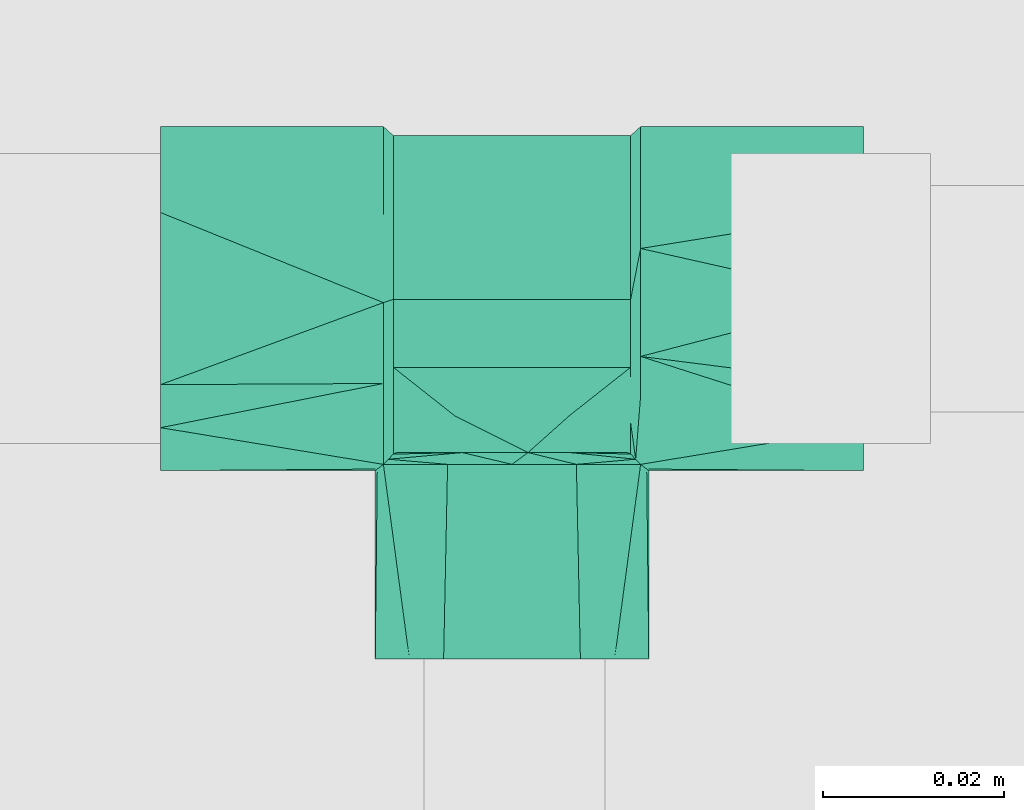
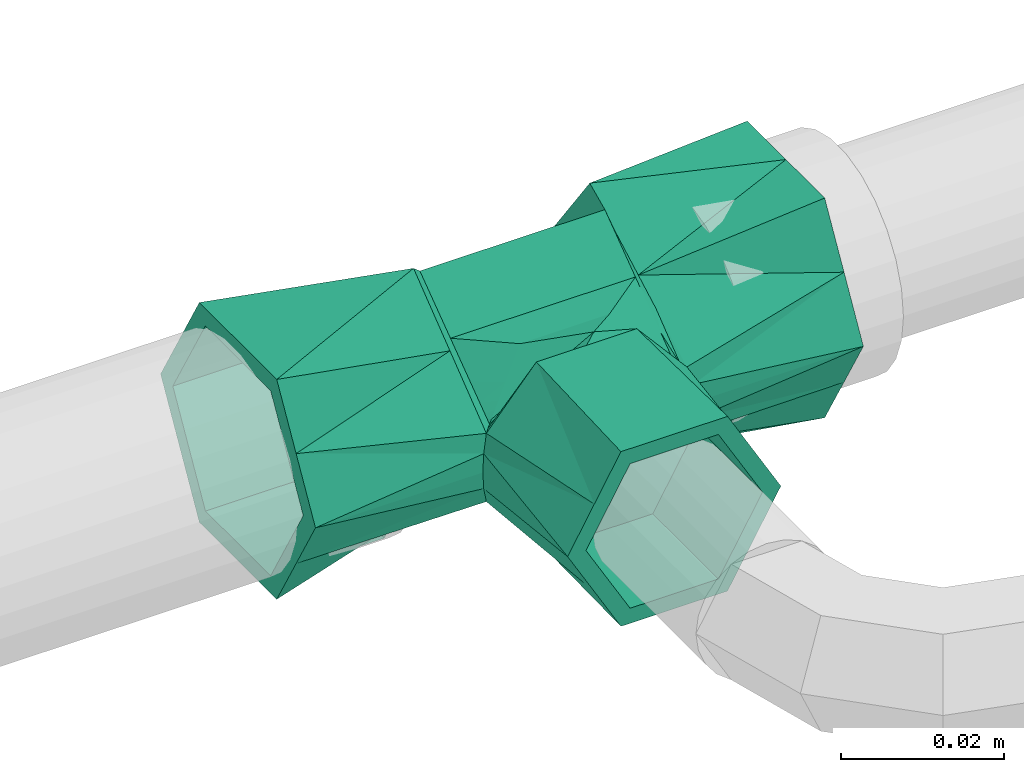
# One storey, part 110 of 166: 1 flow fitting.
"""IFC2X3 building model written with IfcOpenShell, lengths in metres."""

from ifc_helpers import new_model, entity, si_unit, converted_unit, direction, frame, origin, place, context, subcontext, project, spatial, faceted_brep, source, transform, mapped, material, type_object, type_shapes, element, save


model = new_model("IFC2X3")

# Units and contexts
model_context = context("Model", 3, precision=1e-05, world=origin(), true_north=direction((6.123233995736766e-17, 1.0)))
body_context = subcontext(model_context, "Body", "Model", "MODEL_VIEW")
ifc_project = project(units=[si_unit("LENGTHUNIT", "METRE"), converted_unit("PLANEANGLEUNIT", "DEGREE", entity("IfcPlaneAngleMeasure", 0.017453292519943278), si_unit("PLANEANGLEUNIT", "RADIAN"), dimensions=[0, 0, 0, 0, 0, 0, 0]), si_unit("AREAUNIT", "SQUARE_METRE")], contexts=[model_context])

# Site, building, storey
site_placement = place(None, origin())
site = spatial("IfcSite", under=ifc_project, at=site_placement, Name="Default", CompositionType="ELEMENT")
building_placement = place(site_placement, origin())
building = spatial("IfcBuilding", under=site, at=building_placement, Name="CASA DE ACOLHIDA PARA IDOSOS", CompositionType="ELEMENT")
storey_placement = place(building_placement, frame((0.0, 0.0, -1.7499999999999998)))
storey = spatial("IfcBuildingStorey", under=building, at=storey_placement, Name="IMPLANTAÇÃO DRENAGEM", CompositionType="ELEMENT", Elevation=-1.7499999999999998)

# Flow fitting
ifc_material = material(Name="PVC Branco")
pipe_fitting_type = type_object("IfcPipeFittingType", Name="AF_Roscavel_Te_Reducao:Standard", PredefinedType="NOTDEFINED", material=ifc_material)
shared_shape = source(origin(), body_context, "Body", "Brep", [
    faceted_brep([(-0.014199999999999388, 0.01563344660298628, -0.004544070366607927), (-0.014199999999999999, 0.018999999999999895, 0.0), (-0.0131, 0.01799999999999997, 0.0), (-0.014199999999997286, -0.01071379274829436, -0.009268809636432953), (-0.013099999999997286, -0.00862473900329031, -0.011707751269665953), (-0.01309999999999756, -0.012376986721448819, -0.008943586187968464), (-0.013099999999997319, -0.013728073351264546, -0.00794828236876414), (-0.01419999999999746, -0.0004246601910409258, -0.01490965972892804), (-0.01309999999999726, -0.004354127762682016, -0.014853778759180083), (-0.01419999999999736, -0.006383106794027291, -0.011643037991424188), (-0.013099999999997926, 0.004437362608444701, -0.013499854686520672), (-0.014199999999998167, 0.008900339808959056, -0.013632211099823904), (-0.013099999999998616, 0.008958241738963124, -0.008999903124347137), (-0.013099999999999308, 0.013479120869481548, -0.004499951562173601), (-0.01419999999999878, 0.01226689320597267, -0.009088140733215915), (-0.013653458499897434, -0.01773405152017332, -0.005279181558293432), (-0.013099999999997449, -0.014771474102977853, -0.007179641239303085), (-0.013099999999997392, -0.015968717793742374, -0.006297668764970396), (-0.013099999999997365, -0.016567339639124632, -0.005856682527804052), (-0.013099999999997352, -0.016866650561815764, -0.005636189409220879), (-0.013099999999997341, -0.017016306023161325, -0.005525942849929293), (-0.01309999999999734, -0.017165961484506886, -0.005415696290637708), (-0.014199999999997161, -0.018300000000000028, -0.005109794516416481), (-0.014199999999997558, 0.005533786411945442, -0.018176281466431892), (-0.013099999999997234, -8.35165220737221e-05, -0.017999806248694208), (-0.013099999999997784, -0.007588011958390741, -0.012471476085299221), (-0.013100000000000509, -0.0001668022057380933, 0.014208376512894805), (-0.014200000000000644, -0.004906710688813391, 0.015523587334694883), (-0.01310000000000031, -0.005833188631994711, 0.011277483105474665), (-0.014200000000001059, 0.014139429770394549, 0.0047487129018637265), (-0.013100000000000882, 0.011749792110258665, 0.00856963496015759), (-0.013100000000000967, 0.014874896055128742, 0.004284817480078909), (-0.01420000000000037, -0.009371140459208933, 0.012052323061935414), (-0.014200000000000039, -0.014747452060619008, 0.007872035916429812), (-0.013100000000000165, -0.009867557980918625, 0.009190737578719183), (-0.014200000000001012, 0.009278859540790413, 0.00949742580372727), (-0.014200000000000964, 0.004418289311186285, 0.014246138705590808), (-0.01310000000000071, 0.0054995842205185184, 0.01713926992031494), (-0.013100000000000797, 0.008624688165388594, 0.012854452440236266), (-0.013653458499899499, -0.017734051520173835, 0.005279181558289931), (-0.014200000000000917, -0.0004422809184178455, 0.018994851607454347), (-0.014199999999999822, -0.01830000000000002, 0.005109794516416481), (-0.013099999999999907, -0.01716596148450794, 0.0054156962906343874), (-0.013099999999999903, -0.01700710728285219, 0.005497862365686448), (-0.013099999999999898, -0.016848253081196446, 0.0055800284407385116), (-0.013099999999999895, -0.016530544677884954, 0.0057443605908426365), (-0.01309999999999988, -0.015895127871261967, 0.006073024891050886), (-0.01309999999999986, -0.014624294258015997, 0.006730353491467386), (-0.013099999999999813, -0.012082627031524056, 0.008045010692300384), (-0.013099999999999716, 0.010989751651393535, 0.009611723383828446), (-0.013099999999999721, -0.006999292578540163, 0.010674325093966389), (0.00953576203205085, -0.014962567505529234, 0.009221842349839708), (0.01113423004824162, -0.01598128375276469, 0.007568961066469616), (0.013100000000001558, -0.014624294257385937, 0.006730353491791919), (0.013100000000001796, -0.006999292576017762, 0.010674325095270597), (0.013100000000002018, -0.005833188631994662, 0.011277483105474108), (0.013100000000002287, -0.00016680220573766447, 0.01420837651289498), (0.013100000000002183, 0.005499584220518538, 0.017139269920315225), (0.0127326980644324, -0.017000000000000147, 0.005916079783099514), (0.012919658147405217, -0.017084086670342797, 0.005668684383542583), (0.01310000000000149, -0.01684825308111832, 0.0055800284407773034), (0.013100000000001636, -0.012082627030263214, 0.00804501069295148), (0.006338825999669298, -0.01292513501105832, 0.012527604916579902), (0.007625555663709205, -0.013745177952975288, 0.011197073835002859), (0.008912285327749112, -0.014565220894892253, 0.009866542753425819), (-0.011133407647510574, -0.015980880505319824, 0.007569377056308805), (-0.01082226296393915, -0.015782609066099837, 0.007891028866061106), (-0.009534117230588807, -0.014961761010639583, 0.009222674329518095), (-0.008911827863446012, -0.014565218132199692, 0.00986597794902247), (-0.006335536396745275, -0.0129235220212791, 0.012529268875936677), (-0.012977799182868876, -0.017110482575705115, 0.005587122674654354), (-0.012919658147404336, -0.017084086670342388, 0.005668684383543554), (0.013100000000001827, -0.00986755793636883, 0.00919073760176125), (-0.01273269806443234, -0.017000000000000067, 0.005916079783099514), (-0.011933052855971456, -0.016490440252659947, 0.00674272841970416), (0.0131000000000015, -0.01653054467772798, 0.005744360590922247), (0.011933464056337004, -0.016490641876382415, 0.006742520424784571), (0.013100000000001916, 0.008624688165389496, 0.012854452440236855), (0.013100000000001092, 0.011749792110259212, 0.00856963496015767), (0.013100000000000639, 0.014874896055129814, 0.0042848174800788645), (0.0131, 0.017999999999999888, 0.0), (0.012977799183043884, -0.01711048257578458, 0.005587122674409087), (0.01310000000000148, -0.017165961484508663, 0.005415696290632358), (0.013100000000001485, -0.017007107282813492, 0.005497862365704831), (0.01310000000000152, -0.0158951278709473, 0.006073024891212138), (0.01309999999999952, 0.012176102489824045, -0.005796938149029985), (0.013099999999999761, 0.008958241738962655, -0.008999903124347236), (0.013099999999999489, 0.006352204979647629, -0.011593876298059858), (0.013099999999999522, -8.351652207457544e-05, -0.01799980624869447), (-0.01291965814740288, -0.017084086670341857, -0.005668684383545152), (-0.012977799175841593, -0.017110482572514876, -0.005587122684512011), (0.013099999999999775, -0.007588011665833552, -0.012471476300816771), (0.0063388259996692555, -0.012925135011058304, -0.012527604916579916), (-0.006335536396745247, -0.01292352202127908, -0.012529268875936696), (0.013099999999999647, -0.005186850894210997, -0.014240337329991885), (-0.01273269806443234, -0.017000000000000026, -0.005916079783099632), (-0.011933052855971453, -0.01649044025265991, -0.006742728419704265), (0.009535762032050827, -0.014962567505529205, -0.009221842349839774), (0.013099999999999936, -0.012376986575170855, -0.008943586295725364), (0.013100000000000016, -0.014771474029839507, -0.007179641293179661), (0.013100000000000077, -0.016567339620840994, -0.005856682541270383), (0.0127326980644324, -0.017000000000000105, -0.005916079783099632), (0.011933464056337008, -0.01649064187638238, -0.006742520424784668), (0.008912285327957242, -0.01456522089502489, -0.009866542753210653), (0.013099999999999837, -0.010290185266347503, -0.010480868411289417), (0.012977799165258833, -0.017110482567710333, -0.005587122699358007), (0.012919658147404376, -0.017084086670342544, -0.005668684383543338), (0.013100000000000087, -0.016866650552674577, -0.005636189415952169), (0.01310000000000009, -0.017016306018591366, -0.005525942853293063), (0.013100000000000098, -0.01716596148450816, -0.0054156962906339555), (0.011134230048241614, -0.015981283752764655, -0.007568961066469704), (0.010822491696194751, -0.01578261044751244, -0.00789131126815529), (-0.007623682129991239, -0.01374437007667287, -0.011197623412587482), (-0.008911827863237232, -0.01456521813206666, -0.00986597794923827), (-0.009534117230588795, -0.014961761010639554, -0.009222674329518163), (-0.011133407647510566, -0.01598088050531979, -0.007569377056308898), (0.013100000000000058, -0.01596871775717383, -0.006297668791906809), (0.014200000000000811, 0.01226689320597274, 0.009088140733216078), (0.014200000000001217, 0.008900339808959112, 0.013632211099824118), (0.014200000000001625, 0.005533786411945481, 0.018176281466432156), (0.014200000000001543, -0.00312758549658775, 0.013427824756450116), (0.014200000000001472, -0.010713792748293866, 0.009268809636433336), (0.013653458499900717, -0.017734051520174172, 0.005279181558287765), (0.014200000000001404, -0.01829999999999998, 0.005109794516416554), (0.014199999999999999, 0.019, 0.0), (0.014200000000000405, 0.01563344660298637, 0.004544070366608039), (0.014200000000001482, -0.0063831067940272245, 0.011643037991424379), (0.014199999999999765, -0.00044228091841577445, -0.018994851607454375), (0.014199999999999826, -0.004906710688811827, -0.015523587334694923), (0.01419999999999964, 0.009278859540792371, -0.009497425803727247), (0.014199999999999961, -0.0147474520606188, -0.007872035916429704), (0.01420000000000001, -0.018299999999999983, -0.005109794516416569), (0.013653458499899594, -0.017734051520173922, -0.00527918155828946), (0.014199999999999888, -0.009371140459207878, -0.01205232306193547), (0.014199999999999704, 0.0044182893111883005, -0.01424613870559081), (0.014199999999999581, 0.014139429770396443, -0.004748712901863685), (-0.0388000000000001, -0.009500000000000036, -0.016454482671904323), (-0.0388000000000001, -0.016, 0.0), (-0.03879999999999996, -0.011857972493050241, -0.007174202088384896), (-0.0388000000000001, -0.014250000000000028, -0.008227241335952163), (-0.0388000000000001, -0.008000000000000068, -0.01385640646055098), (-0.0388000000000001, 0.0, -0.013856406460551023), (-0.0388000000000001, 0.007999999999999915, -0.013856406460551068), (-0.0388000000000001, 0.0, -0.01645448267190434), (-0.0388000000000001, -0.01900000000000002, 0.0), (-0.0388000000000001, -0.012000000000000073, 0.006928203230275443), (-0.0388000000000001, -0.008000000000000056, 0.013856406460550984), (-0.0388000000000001, -0.014249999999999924, 0.008227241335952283), (-0.0388000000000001, -0.00949999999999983, 0.01645448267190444), (-0.0388000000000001, 0.0, 0.013856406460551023), (-0.0388000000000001, 0.007999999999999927, 0.01385640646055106), (-0.0388000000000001, 0.0, 0.01645448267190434), (-0.0388000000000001, 0.009500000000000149, 0.016454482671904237), (-0.0388000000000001, 0.01549204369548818, 0.006075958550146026), (-0.0388000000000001, 0.01899999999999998, 0.0), (-0.03879999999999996, 0.01185797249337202, 0.007174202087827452), (-0.0388000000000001, 0.016, 0.0), (-0.0388000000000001, 0.014249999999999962, -0.0082272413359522), (-0.0388000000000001, 0.009499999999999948, -0.016454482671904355), (-0.0388000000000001, 0.011999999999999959, -0.006928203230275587), (-0.014872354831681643, -0.018819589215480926, 0.0026120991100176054), (-0.015099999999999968, -0.01900000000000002, 0.0), (0.0388000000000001, -0.019, 0.0), (0.014872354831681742, -0.018819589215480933, 0.0026120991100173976), (0.015100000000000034, -0.019, 0.0), (0.0388000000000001, 0.014249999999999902, 0.008227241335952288), (0.0388000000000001, 0.019, 0.0), (-0.014872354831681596, -0.018819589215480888, -0.0026120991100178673), (0.014872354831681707, -0.018819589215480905, -0.0026120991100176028), (0.0388000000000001, 0.015492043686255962, -0.006075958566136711), (0.0388000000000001, 0.009500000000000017, -0.016454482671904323), (0.0388000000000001, 0.015999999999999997, 0.0), (0.038800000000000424, 0.011857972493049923, -0.007174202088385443), (0.0388000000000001, 0.008000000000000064, -0.01385640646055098), (0.0388000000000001, 0.0, -0.013856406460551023), (0.0388000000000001, -0.007999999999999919, -0.013856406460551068), (0.0388000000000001, 0.0, -0.01645448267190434), (0.0388000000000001, 0.012000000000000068, 0.006928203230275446), (0.0388000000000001, 0.00800000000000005, 0.013856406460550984), (0.0388000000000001, 0.00949999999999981, 0.01645448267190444), (0.0388000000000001, 0.0, 0.013856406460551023), (0.0388000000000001, -0.00799999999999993, 0.01385640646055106), (0.0388000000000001, 0.0, 0.01645448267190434), (0.0388000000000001, -0.00950000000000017, 0.016454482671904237), (0.0388000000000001, -0.014250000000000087, 0.008227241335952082), (0.038800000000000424, -0.01185797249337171, 0.007174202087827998), (0.0388000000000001, -0.016000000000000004, 0.0), (0.0388000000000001, -0.014249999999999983, -0.008227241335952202), (0.0388000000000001, -0.009499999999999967, -0.016454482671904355), (0.0388000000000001, -0.011999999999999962, -0.006928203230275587), (-0.02269999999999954, -0.016, 0.0), (-0.02269999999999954, -0.01185797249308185, 0.0071742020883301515), (-0.02269999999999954, -0.008000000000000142, 0.013856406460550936), (-0.02269999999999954, 0.0, 0.013856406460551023), (-0.02269999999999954, 0.007999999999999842, 0.01385640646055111), (-0.02269999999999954, 0.01199999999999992, 0.006928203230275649), (-0.02269999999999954, 0.016, 0.0), (-0.02269999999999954, 0.011857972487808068, -0.007174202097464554), (-0.02269999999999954, 0.008000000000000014, -0.01385640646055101), (-0.022699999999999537, 0.0, -0.01385640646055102), (-0.02269999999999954, -0.007999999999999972, -0.013856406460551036), (-0.02269999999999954, -0.011999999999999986, -0.006928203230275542), (0.022700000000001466, -0.016000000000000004, 0.0), (0.022700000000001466, -0.011999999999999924, 0.006928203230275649), (0.022700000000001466, -0.007999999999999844, 0.01385640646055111), (0.022700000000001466, 0.0, 0.013856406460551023), (0.022700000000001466, 0.00800000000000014, 0.013856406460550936), (0.022700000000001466, 0.011857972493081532, 0.007174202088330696), (0.022700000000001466, 0.015999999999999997, 0.0), (0.022700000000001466, 0.011999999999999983, -0.006928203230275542), (0.022700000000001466, 0.00799999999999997, -0.013856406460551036), (0.022700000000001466, 0.0, -0.013856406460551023), (0.022700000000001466, -0.008000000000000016, -0.01385640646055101), (0.022700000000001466, -0.011857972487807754, -0.007174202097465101), (0.01250000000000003, -0.02369999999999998, 0.0), (0.006250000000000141, -0.023699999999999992, 0.010825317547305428), (-0.006249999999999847, -0.02370000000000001, 0.010825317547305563), (-0.012499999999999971, -0.023700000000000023, 0.0), (-0.006249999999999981, -0.02370000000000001, -0.010825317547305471), (0.006250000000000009, -0.023699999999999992, -0.01082531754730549), (0.012500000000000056, -0.03979999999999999, 0.0), (0.006250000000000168, -0.039799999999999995, 0.010825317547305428), (-0.00624999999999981, -0.039800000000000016, 0.01082531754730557), (-0.012499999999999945, -0.03980000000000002, 0.0), (-0.006249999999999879, -0.039800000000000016, -0.010825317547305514), (0.006250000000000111, -0.039799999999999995, -0.010825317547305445), (-0.0017679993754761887, -0.01700000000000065, -0.013928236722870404), (-0.006407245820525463, -0.017000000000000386, -0.010538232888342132), (0.009386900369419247, -0.01700000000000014, -0.007764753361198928), (0.006041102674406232, -0.017000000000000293, -0.009613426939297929), (0.005482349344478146, -0.017000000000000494, -0.009922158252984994), (0.0017662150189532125, -0.016999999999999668, 0.013928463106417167), (0.006407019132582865, -0.016999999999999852, 0.010537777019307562), (-0.009386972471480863, -0.01699999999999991, 0.007764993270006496), (-0.00604124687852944, -0.016999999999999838, 0.009613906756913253), (-0.005483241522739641, -0.01699999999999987, 0.009922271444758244), (1.2383427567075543e-06, -0.018300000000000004, 0.013321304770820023), (0.007111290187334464, -0.018299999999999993, 0.013320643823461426), (-0.007108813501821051, -0.018300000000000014, 0.013321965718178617), (1.2383427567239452e-06, -0.01830000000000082, -0.013321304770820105), (-0.007108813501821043, -0.018300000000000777, -0.013321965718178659), (0.007111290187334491, -0.018300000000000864, -0.01332064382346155), (0.007550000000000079, -0.039799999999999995, -0.013076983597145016), (0.011325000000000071, -0.03979999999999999, -0.00653849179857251), (0.0, -0.0398, -0.013076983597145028), (0.015100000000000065, -0.03979999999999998, 0.0), (0.011324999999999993, -0.03979999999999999, 0.006538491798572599), (0.007549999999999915, -0.039799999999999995, 0.01307698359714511), (0.0, -0.0398, 0.013076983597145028), (-0.007550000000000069, -0.039800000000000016, 0.013076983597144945), (-0.011325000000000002, -0.03980000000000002, 0.006538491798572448), (-0.015099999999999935, -0.03980000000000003, 0.0), (-0.011324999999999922, -0.03980000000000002, -0.006538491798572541), (-0.007549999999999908, -0.039800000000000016, -0.01307698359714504)], [[[0, 1, 2]], [[3, 4, 5, 6]], [[7, 8, 9]], [[10, 11, 12]], [[13, 14, 0]], [[15, 6, 16, 17, 18, 19, 20, 21]], [[4, 3, 9]], [[3, 6, 15]], [[0, 2, 13]], [[15, 22, 3]], [[23, 10, 24]], [[12, 14, 13]], [[8, 7, 24]], [[9, 8, 25, 4]], [[11, 10, 23]], [[11, 14, 12]], [[7, 23, 24]], [[26, 27, 28]], [[29, 30, 31]], [[31, 1, 29]], [[31, 2, 1]], [[27, 32, 28]], [[33, 34, 32]], [[29, 35, 30]], [[36, 37, 38]], [[34, 33, 39]], [[40, 37, 36]], [[33, 41, 39]], [[39, 42, 43, 44, 45, 46, 47, 48, 34]], [[35, 38, 49, 30]], [[26, 40, 27]], [[26, 37, 40]], [[36, 38, 35]], [[32, 34, 50, 28]], [[51, 52, 53]], [[50, 54, 55, 56, 57, 37, 26, 28]], [[58, 59, 60]], [[61, 62, 63, 64, 51]], [[47, 65, 66, 67]], [[48, 67, 68, 69]], [[69, 50, 34, 48]], [[70, 71, 44, 43, 42]], [[62, 61, 72, 54]], [[45, 73, 74]], [[50, 69, 54]], [[58, 75, 76]], [[73, 44, 71]], [[2, 31, 30, 49, 38, 37, 57, 77, 78, 79, 80]], [[45, 44, 73]], [[62, 54, 69]], [[60, 75, 58]], [[67, 48, 47]], [[59, 81, 82, 83, 60]], [[84, 76, 75]], [[65, 47, 46]], [[61, 51, 53]], [[46, 74, 65]], [[53, 52, 84]], [[45, 74, 46]], [[84, 52, 76]], [[12, 13, 2, 80, 85, 86, 87, 88, 24, 10]], [[89, 90, 21, 20, 19]], [[91, 92, 93]], [[93, 25, 91]], [[24, 88, 94, 91, 25, 8]], [[95, 18, 96]], [[17, 96, 18]], [[97, 98, 99]], [[100, 101, 102]], [[98, 97, 103, 92]], [[92, 91, 104, 98]], [[105, 106, 107, 108, 109]], [[99, 110, 111, 97]], [[5, 93, 112, 113, 114]], [[114, 115, 16]], [[95, 89, 19]], [[19, 18, 95]], [[93, 5, 4, 25]], [[101, 107, 106]], [[100, 107, 101]], [[110, 99, 116]], [[114, 16, 6, 5]], [[116, 102, 110]], [[16, 115, 17]], [[100, 102, 116]], [[17, 115, 96]], [[117, 77, 118]], [[56, 119, 57]], [[57, 118, 77]], [[119, 118, 57]], [[119, 56, 120]], [[121, 55, 54, 72]], [[122, 72, 61, 53, 84, 75, 60, 83, 82]], [[121, 122, 123]], [[124, 80, 79]], [[122, 121, 72]], [[125, 79, 78]], [[78, 117, 125]], [[56, 55, 120]], [[55, 121, 126, 120]], [[124, 79, 125]], [[77, 117, 78]], [[127, 128, 88]], [[129, 87, 86, 85]], [[130, 131, 132]], [[130, 104, 133]], [[88, 134, 127]], [[80, 135, 85]], [[132, 109, 108, 107, 100, 116, 99, 98, 104]], [[133, 104, 91, 94]], [[134, 88, 87]], [[94, 128, 133]], [[87, 129, 134]], [[104, 130, 132]], [[88, 128, 94]], [[135, 80, 124]], [[135, 129, 85]], [[136, 137, 138]], [[137, 136, 139]], [[136, 138, 140]], [[136, 140, 141]], [[136, 141, 142]], [[142, 143, 136]], [[137, 139, 144]], [[144, 145, 137]], [[144, 146, 145]], [[146, 144, 147]], [[146, 147, 148]], [[148, 149, 146]], [[148, 150, 149]], [[150, 148, 151]], [[150, 151, 152]], [[150, 152, 153]], [[150, 153, 154]], [[154, 155, 150]], [[154, 156, 155]], [[156, 154, 157]], [[156, 157, 158]], [[158, 142, 159]], [[142, 158, 143]], [[158, 159, 156]], [[35, 153, 152]], [[40, 152, 151, 148]], [[153, 35, 29, 1]], [[147, 32, 148]], [[152, 40, 36, 35]], [[160, 144, 161]], [[162, 163, 164]], [[1, 154, 153]], [[165, 166, 124]], [[160, 41, 147]], [[144, 160, 147]], [[148, 32, 27, 40]], [[147, 41, 33, 32]], [[139, 9, 3, 22]], [[136, 9, 139]], [[167, 139, 22]], [[144, 167, 161]], [[168, 162, 164]], [[167, 144, 139]], [[143, 158, 23]], [[143, 9, 136]], [[157, 154, 1]], [[124, 166, 169]], [[157, 1, 0, 14]], [[158, 14, 11, 23]], [[143, 23, 7, 9]], [[14, 158, 157]], [[170, 171, 172]], [[171, 170, 169]], [[170, 172, 173]], [[170, 173, 174]], [[170, 174, 175]], [[175, 176, 170]], [[171, 169, 166]], [[166, 177, 171]], [[166, 178, 177]], [[178, 166, 165]], [[178, 165, 179]], [[179, 180, 178]], [[179, 181, 180]], [[181, 179, 182]], [[181, 182, 183]], [[181, 183, 184]], [[181, 184, 162]], [[162, 185, 181]], [[162, 186, 185]], [[186, 162, 187]], [[186, 187, 188]], [[188, 175, 189]], [[175, 188, 176]], [[188, 189, 186]], [[184, 126, 121, 123]], [[183, 126, 184]], [[163, 184, 123]], [[163, 162, 184]], [[182, 179, 119]], [[182, 126, 183]], [[165, 124, 125, 117]], [[179, 117, 118, 119]], [[182, 119, 120, 126]], [[117, 179, 165]], [[129, 169, 170]], [[127, 170, 176, 188]], [[169, 129, 135, 124]], [[187, 133, 188]], [[170, 127, 134, 129]], [[168, 131, 187]], [[162, 168, 187]], [[188, 133, 128, 127]], [[187, 131, 130, 133]], [[190, 191, 192, 193, 194, 195, 196, 197, 198, 199, 200, 201]], [[192, 191, 190, 137, 145, 146]], [[186, 202, 203, 204, 181, 185]], [[194, 193, 192, 146, 149, 150]], [[204, 205, 206, 178, 180, 181]], [[156, 196, 195, 194, 150, 155]], [[206, 207, 208, 171, 177, 178]], [[198, 197, 196, 156, 159, 142]], [[171, 208, 209, 210, 173, 172]], [[200, 199, 198, 142, 141, 140]], [[210, 211, 212, 175, 174, 173]], [[137, 190, 201, 200, 140, 138]], [[212, 213, 202, 186, 189, 175]], [[208, 207, 206, 205, 204, 203, 202, 213, 212, 211, 210, 209]], [[214, 215, 216, 217, 218, 219]], [[220, 221, 215, 214]], [[221, 222, 216, 215]], [[222, 223, 217, 216]], [[223, 224, 218, 217]], [[224, 225, 219, 218]], [[225, 220, 214, 219]], [[226, 227, 95, 96, 115, 114, 113, 112, 93]], [[92, 103, 97, 111, 110, 102, 101, 228, 229, 230, 226]], [[92, 226, 93]], [[231, 232, 58, 76, 52, 51, 64, 63, 62]], [[69, 68, 67, 66, 65, 74, 73, 233, 234, 235, 231]], [[69, 231, 62]], [[42, 39, 235]], [[235, 236, 231]], [[232, 82, 81, 59]], [[123, 122, 237]], [[236, 237, 231]], [[82, 232, 122]], [[237, 122, 232]], [[71, 235, 234, 233, 73]], [[235, 71, 70, 42]], [[39, 238, 235]], [[236, 235, 238]], [[39, 41, 238]], [[59, 58, 232]], [[237, 232, 231]], [[109, 132, 230]], [[230, 239, 226]], [[227, 21, 90, 89]], [[22, 15, 240]], [[239, 240, 226]], [[21, 227, 15]], [[240, 15, 227]], [[106, 230, 229, 228, 101]], [[230, 106, 105, 109]], [[132, 241, 230]], [[239, 230, 241]], [[132, 131, 241]], [[89, 95, 227]], [[240, 227, 226]], [[242, 220, 225]], [[220, 242, 243]], [[242, 225, 224]], [[224, 244, 242]], [[220, 243, 245]], [[221, 220, 245]], [[221, 245, 246]], [[221, 246, 247]], [[221, 247, 222]], [[222, 247, 248]], [[222, 248, 249]], [[222, 249, 250]], [[222, 250, 251]], [[251, 223, 222]], [[223, 251, 252]], [[223, 252, 253]], [[253, 224, 223]], [[224, 253, 244]], [[251, 160, 161]], [[249, 238, 250]], [[245, 164, 163]], [[238, 249, 248]], [[251, 250, 160]], [[250, 238, 41]], [[237, 248, 247]], [[245, 163, 246]], [[123, 246, 163]], [[237, 247, 246]], [[237, 246, 123]], [[160, 250, 41]], [[248, 237, 236, 238]], [[245, 168, 164]], [[242, 241, 243]], [[253, 240, 244]], [[251, 161, 167]], [[245, 243, 168]], [[243, 241, 131]], [[244, 240, 239, 241]], [[251, 167, 252]], [[22, 252, 167]], [[240, 253, 252]], [[240, 252, 22]], [[168, 243, 131]], [[242, 244, 241]]]),
])
type_shapes(pipe_fitting_type, [shared_shape])
flow_fitting_placement = place(storey_placement, frame((20.039051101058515, -3.545057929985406, -0.19999999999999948), z_axis=(0.0, 0.0, -1.0), x_axis=(-1.0, 0.0, 0.0)))
element("IfcFlowFitting", 1, at=flow_fitting_placement, inside=storey, type_object=pipe_fitting_type, material=ifc_material, Name="AF_Roscavel_Te_Reducao:Standard", ObjectType="AF_Roscavel_Te_Reducao:Standard", context=body_context, shape_type="MappedRepresentation", body=[
    mapped(shared_shape, transform((0.0, 0.0, 0.0), scale=1.0)),
])

save(model, "model.ifc")
